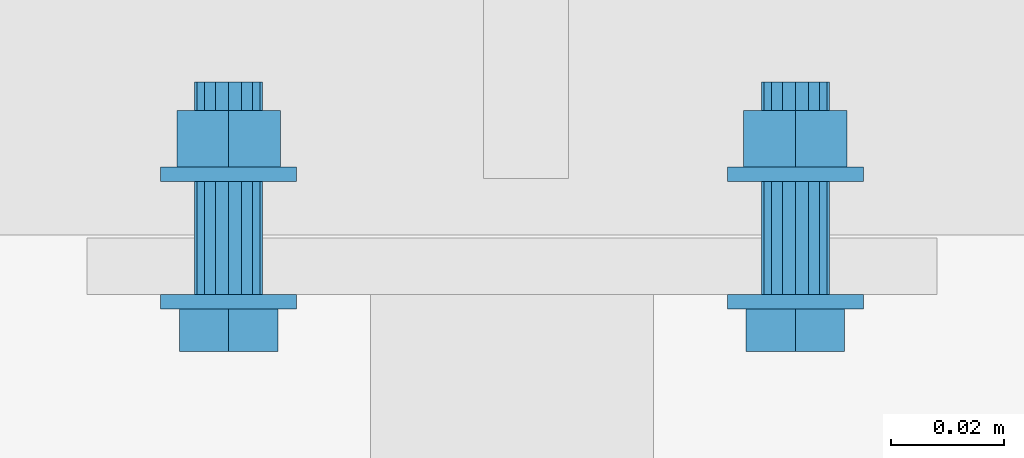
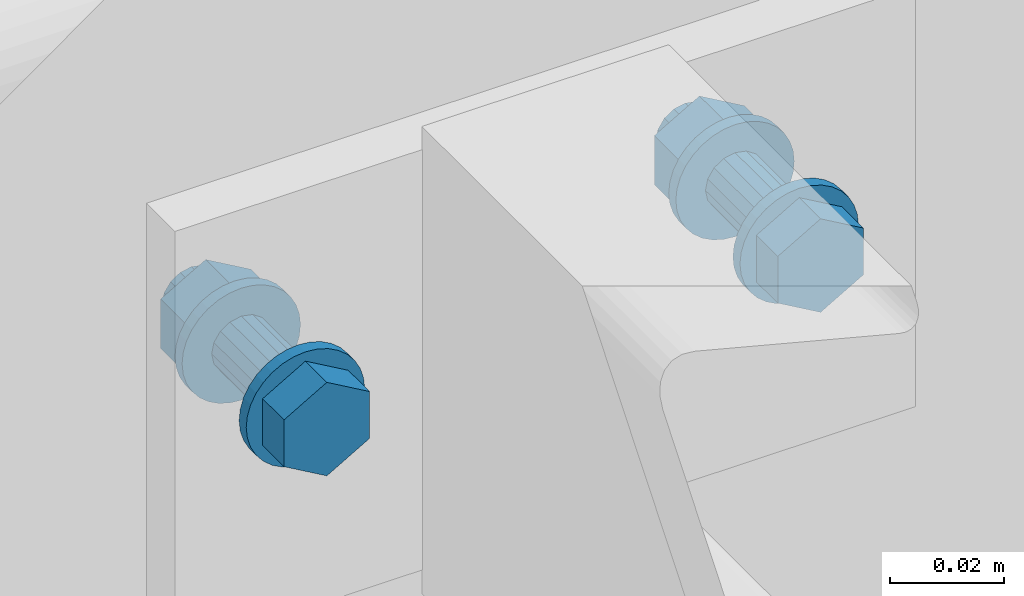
# One storey, part 348 of 825: 1 mechanical fastener.
"""IFC2X3 building model written with IfcOpenShell, lengths in millimetres."""

from ifc_helpers import new_model, entity, si_unit, converted_unit, origin_with_axes, place, context, project, spatial, faceted_brep, element, save


model = new_model("IFC2X3")

# Units and contexts
model_context = context("Model", 3, precision=1e-09, world=origin_with_axes())
ifc_project = project(units=[si_unit("LENGTHUNIT", "METRE", prefix="MILLI"), si_unit("AREAUNIT", "SQUARE_METRE"), si_unit("VOLUMEUNIT", "CUBIC_METRE"), converted_unit("PLANEANGLEUNIT", "DEGREE", entity("IfcPlaneAngleMeasure", 0.01745329), si_unit("PLANEANGLEUNIT", "RADIAN"), dimensions=[0, 0, 0, 0, 0, 0, 0])], contexts=[model_context])

# Site, building, storey
site_placement = place(None, origin_with_axes())
site = spatial("IfcSite", under=ifc_project, at=site_placement, Name="Cnopf'sche Kinderklinik", CompositionType="ELEMENT")
building_placement = place(site_placement, origin_with_axes())
building = spatial("IfcBuilding", under=site, at=building_placement, Name="Struktur 1", CompositionType="ELEMENT")
storey_placement = place(building_placement, origin_with_axes())
storey = spatial("IfcBuildingStorey", under=building, at=storey_placement, Name="Default Storey", CompositionType="ELEMENT", Elevation=0.0)

# Mechanical fastener
mechanical_fastener_placement = place(None, origin_with_axes())
element("IfcMechanicalFastener", 1, at=mechanical_fastener_placement, inside=storey, ObjectType="-", NominalDiameter=12.0, NominalLength=40.0, context=model_context, shape_type="Brep", body=[
    faceted_brep([(4489.713402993, 7293.736971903, 9852.0), (4489.713402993, 7296.236971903, 9852.0), (4489.943979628, 7296.236971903, 9849.658916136), (4489.943979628, 7293.736971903, 9849.658916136), (4490.626848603, 7296.236971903, 9847.407798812), (4490.626848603, 7293.736971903, 9847.407798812), (4491.735767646, 7296.236971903, 9845.333157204), (4491.735767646, 7293.736971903, 9845.333157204), (4493.228121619, 7296.236971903, 9843.514718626), (4493.228121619, 7293.736971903, 9843.514718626), (4495.046560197, 7296.236971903, 9842.022364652), (4495.046560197, 7293.736971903, 9842.022364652), (4497.121201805, 7296.236971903, 9840.91344561), (4497.121201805, 7293.736971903, 9840.91344561), (4499.372319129, 7296.236971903, 9840.230576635), (4499.372319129, 7293.736971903, 9840.230576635), (4501.713402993, 7296.236971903, 9840.0), (4501.713402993, 7293.736971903, 9840.0), (4504.054486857, 7296.236971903, 9840.230576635), (4504.054486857, 7293.736971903, 9840.230576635), (4506.305604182, 7296.236971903, 9840.91344561), (4506.305604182, 7293.736971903, 9840.91344561), (4508.380245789, 7296.236971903, 9842.022364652), (4508.380245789, 7293.736971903, 9842.022364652), (4510.198684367, 7296.236971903, 9843.514718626), (4510.198684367, 7293.736971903, 9843.514718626), (4511.691038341, 7296.236971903, 9845.333157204), (4511.691038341, 7293.736971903, 9845.333157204), (4512.799957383, 7296.236971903, 9847.407798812), (4512.799957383, 7293.736971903, 9847.407798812), (4513.482826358, 7296.236971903, 9849.658916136), (4513.482826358, 7293.736971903, 9849.658916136), (4513.713402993, 7296.236971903, 9852.0), (4513.713402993, 7293.736971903, 9852.0), (4513.482826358, 7296.236971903, 9854.341083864), (4513.482826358, 7293.736971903, 9854.341083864), (4512.799957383, 7296.236971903, 9856.592201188), (4512.799957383, 7293.736971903, 9856.592201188), (4511.691038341, 7296.236971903, 9858.666842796), (4511.691038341, 7293.736971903, 9858.666842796), (4510.198684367, 7296.236971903, 9860.485281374), (4510.198684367, 7293.736971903, 9860.485281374), (4508.380245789, 7296.236971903, 9861.977635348), (4508.380245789, 7293.736971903, 9861.977635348), (4506.305604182, 7296.236971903, 9863.08655439), (4506.305604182, 7293.736971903, 9863.08655439), (4504.054486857, 7296.236971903, 9863.769423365), (4504.054486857, 7293.736971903, 9863.769423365), (4501.713402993, 7296.236971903, 9864.0), (4501.713402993, 7293.736971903, 9864.0), (4499.372319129, 7296.236971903, 9863.769423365), (4499.372319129, 7293.736971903, 9863.769423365), (4497.121201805, 7296.236971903, 9863.08655439), (4497.121201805, 7293.736971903, 9863.08655439), (4495.046560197, 7296.236971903, 9861.977635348), (4495.046560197, 7293.736971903, 9861.977635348), (4493.228121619, 7296.236971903, 9860.485281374), (4493.228121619, 7293.736971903, 9860.485281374), (4491.735767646, 7296.236971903, 9858.666842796), (4491.735767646, 7293.736971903, 9858.666842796), (4490.626848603, 7296.236971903, 9856.592201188), (4490.626848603, 7293.736971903, 9856.592201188), (4489.943979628, 7296.236971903, 9854.341083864), (4489.943979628, 7293.736971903, 9854.341083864)], [[[0, 1, 2, 3]], [[3, 2, 4, 5]], [[5, 4, 6, 7]], [[7, 6, 8, 9]], [[9, 8, 10, 11]], [[11, 10, 12, 13]], [[13, 12, 14, 15]], [[15, 14, 16, 17]], [[17, 16, 18, 19]], [[19, 18, 20, 21]], [[21, 20, 22, 23]], [[23, 22, 24, 25]], [[25, 24, 26, 27]], [[27, 26, 28, 29]], [[29, 28, 30, 31]], [[31, 30, 32, 33]], [[33, 32, 34, 35]], [[35, 34, 36, 37]], [[37, 36, 38, 39]], [[39, 38, 40, 41]], [[41, 40, 42, 43]], [[43, 42, 44, 45]], [[45, 44, 46, 47]], [[47, 46, 48, 49]], [[49, 48, 50, 51]], [[51, 50, 52, 53]], [[53, 52, 54, 55]], [[55, 54, 56, 57]], [[57, 56, 58, 59]], [[59, 58, 60, 61]], [[61, 60, 62, 63]], [[63, 62, 1, 0]], [[0, 3, 5, 7, 9, 11, 13, 15, 17, 19, 21, 23, 25, 27, 29, 31, 33, 35, 37, 39, 41, 43, 45, 47, 49, 51, 53, 55, 57, 59, 61, 63]], [[1, 62, 60, 58, 56, 54, 52, 50, 48, 46, 44, 42, 40, 38, 36, 34, 32, 30, 28, 26, 24, 22, 20, 18, 16, 14, 12, 10, 8, 6, 4, 2]]]),
    faceted_brep([(4389.713402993, 7293.736971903, 9852.0), (4389.713402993, 7296.236971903, 9852.0), (4389.943979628, 7296.236971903, 9849.658916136), (4389.943979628, 7293.736971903, 9849.658916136), (4390.626848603, 7296.236971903, 9847.407798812), (4390.626848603, 7293.736971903, 9847.407798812), (4391.735767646, 7296.236971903, 9845.333157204), (4391.735767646, 7293.736971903, 9845.333157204), (4393.228121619, 7296.236971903, 9843.514718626), (4393.228121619, 7293.736971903, 9843.514718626), (4395.046560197, 7296.236971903, 9842.022364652), (4395.046560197, 7293.736971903, 9842.022364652), (4397.121201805, 7296.236971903, 9840.91344561), (4397.121201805, 7293.736971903, 9840.91344561), (4399.372319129, 7296.236971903, 9840.230576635), (4399.372319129, 7293.736971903, 9840.230576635), (4401.713402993, 7296.236971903, 9840.0), (4401.713402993, 7293.736971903, 9840.0), (4404.054486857, 7296.236971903, 9840.230576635), (4404.054486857, 7293.736971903, 9840.230576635), (4406.305604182, 7296.236971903, 9840.91344561), (4406.305604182, 7293.736971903, 9840.91344561), (4408.380245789, 7296.236971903, 9842.022364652), (4408.380245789, 7293.736971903, 9842.022364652), (4410.198684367, 7296.236971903, 9843.514718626), (4410.198684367, 7293.736971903, 9843.514718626), (4411.691038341, 7296.236971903, 9845.333157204), (4411.691038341, 7293.736971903, 9845.333157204), (4412.799957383, 7296.236971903, 9847.407798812), (4412.799957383, 7293.736971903, 9847.407798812), (4413.482826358, 7296.236971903, 9849.658916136), (4413.482826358, 7293.736971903, 9849.658916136), (4413.713402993, 7296.236971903, 9852.0), (4413.713402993, 7293.736971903, 9852.0), (4413.482826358, 7296.236971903, 9854.341083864), (4413.482826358, 7293.736971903, 9854.341083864), (4412.799957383, 7296.236971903, 9856.592201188), (4412.799957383, 7293.736971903, 9856.592201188), (4411.691038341, 7296.236971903, 9858.666842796), (4411.691038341, 7293.736971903, 9858.666842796), (4410.198684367, 7296.236971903, 9860.485281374), (4410.198684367, 7293.736971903, 9860.485281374), (4408.380245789, 7296.236971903, 9861.977635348), (4408.380245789, 7293.736971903, 9861.977635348), (4406.305604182, 7296.236971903, 9863.08655439), (4406.305604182, 7293.736971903, 9863.08655439), (4404.054486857, 7296.236971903, 9863.769423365), (4404.054486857, 7293.736971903, 9863.769423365), (4401.713402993, 7296.236971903, 9864.0), (4401.713402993, 7293.736971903, 9864.0), (4399.372319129, 7296.236971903, 9863.769423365), (4399.372319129, 7293.736971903, 9863.769423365), (4397.121201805, 7296.236971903, 9863.08655439), (4397.121201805, 7293.736971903, 9863.08655439), (4395.046560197, 7296.236971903, 9861.977635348), (4395.046560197, 7293.736971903, 9861.977635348), (4393.228121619, 7296.236971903, 9860.485281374), (4393.228121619, 7293.736971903, 9860.485281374), (4391.735767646, 7296.236971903, 9858.666842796), (4391.735767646, 7293.736971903, 9858.666842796), (4390.626848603, 7296.236971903, 9856.592201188), (4390.626848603, 7293.736971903, 9856.592201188), (4389.943979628, 7296.236971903, 9854.341083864), (4389.943979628, 7293.736971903, 9854.341083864)], [[[0, 1, 2, 3]], [[3, 2, 4, 5]], [[5, 4, 6, 7]], [[7, 6, 8, 9]], [[9, 8, 10, 11]], [[11, 10, 12, 13]], [[13, 12, 14, 15]], [[15, 14, 16, 17]], [[17, 16, 18, 19]], [[19, 18, 20, 21]], [[21, 20, 22, 23]], [[23, 22, 24, 25]], [[25, 24, 26, 27]], [[27, 26, 28, 29]], [[29, 28, 30, 31]], [[31, 30, 32, 33]], [[33, 32, 34, 35]], [[35, 34, 36, 37]], [[37, 36, 38, 39]], [[39, 38, 40, 41]], [[41, 40, 42, 43]], [[43, 42, 44, 45]], [[45, 44, 46, 47]], [[47, 46, 48, 49]], [[49, 48, 50, 51]], [[51, 50, 52, 53]], [[53, 52, 54, 55]], [[55, 54, 56, 57]], [[57, 56, 58, 59]], [[59, 58, 60, 61]], [[61, 60, 62, 63]], [[63, 62, 1, 0]], [[0, 3, 5, 7, 9, 11, 13, 15, 17, 19, 21, 23, 25, 27, 29, 31, 33, 35, 37, 39, 41, 43, 45, 47, 49, 51, 53, 55, 57, 59, 61, 63]], [[1, 62, 60, 58, 56, 54, 52, 50, 48, 46, 44, 42, 40, 38, 36, 34, 32, 30, 28, 26, 24, 22, 20, 18, 16, 14, 12, 10, 8, 6, 4, 2]]]),
    faceted_brep([(4510.386647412, 7293.736971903, 9846.9925), (4510.386647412, 7286.236971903, 9846.9925), (4501.713402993, 7286.236971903, 9841.985), (4501.713402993, 7293.736971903, 9841.985), (4493.040158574, 7286.236971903, 9846.9925), (4493.040158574, 7293.736971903, 9846.9925), (4493.040158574, 7286.236971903, 9857.0075), (4493.040158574, 7293.736971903, 9857.0075), (4501.713402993, 7286.236971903, 9862.015), (4501.713402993, 7293.736971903, 9862.015), (4510.386647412, 7286.236971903, 9857.0075), (4510.386647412, 7293.736971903, 9857.0075)], [[[0, 1, 2, 3]], [[3, 2, 4, 5]], [[5, 4, 6, 7]], [[7, 6, 8, 9]], [[9, 8, 10, 11]], [[11, 10, 1, 0]], [[4, 2, 1, 10, 8, 6]], [[0, 3, 5, 7, 9, 11]]]),
    faceted_brep([(4410.386647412, 7293.736971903, 9846.9925), (4410.386647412, 7286.236971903, 9846.9925), (4401.713402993, 7286.236971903, 9841.985), (4401.713402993, 7293.736971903, 9841.985), (4393.040158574, 7286.236971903, 9846.9925), (4393.040158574, 7293.736971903, 9846.9925), (4393.040158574, 7286.236971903, 9857.0075), (4393.040158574, 7293.736971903, 9857.0075), (4401.713402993, 7286.236971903, 9862.015), (4401.713402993, 7293.736971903, 9862.015), (4410.386647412, 7286.236971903, 9857.0075), (4410.386647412, 7293.736971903, 9857.0075)], [[[0, 1, 2, 3]], [[3, 2, 4, 5]], [[5, 4, 6, 7]], [[7, 6, 8, 9]], [[9, 8, 10, 11]], [[11, 10, 1, 0]], [[4, 2, 1, 10, 8, 6]], [[0, 3, 5, 7, 9, 11]]]),
    faceted_brep([(4495.713402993, 7296.236971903, 9852.0), (4495.713402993, 7316.236971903, 9852.0), (4496.170125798, 7316.236971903, 9849.703899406), (4496.170125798, 7296.236971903, 9849.703899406), (4497.470762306, 7316.236971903, 9847.757359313), (4497.470762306, 7296.236971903, 9847.757359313), (4499.417302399, 7316.236971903, 9846.456722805), (4499.417302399, 7296.236971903, 9846.456722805), (4501.713402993, 7316.236971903, 9846.0), (4501.713402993, 7296.236971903, 9846.0), (4504.009503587, 7316.236971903, 9846.456722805), (4504.009503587, 7296.236971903, 9846.456722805), (4505.95604368, 7316.236971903, 9847.757359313), (4505.95604368, 7296.236971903, 9847.757359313), (4507.256680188, 7316.236971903, 9849.703899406), (4507.256680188, 7296.236971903, 9849.703899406), (4507.713402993, 7316.236971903, 9852.0), (4507.713402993, 7296.236971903, 9852.0), (4507.256680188, 7316.236971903, 9854.296100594), (4507.256680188, 7296.236971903, 9854.296100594), (4505.95604368, 7316.236971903, 9856.242640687), (4505.95604368, 7296.236971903, 9856.242640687), (4504.009503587, 7316.236971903, 9857.543277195), (4504.009503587, 7296.236971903, 9857.543277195), (4501.713402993, 7316.236971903, 9858.0), (4501.713402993, 7296.236971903, 9858.0), (4499.417302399, 7316.236971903, 9857.543277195), (4499.417302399, 7296.236971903, 9857.543277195), (4497.470762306, 7316.236971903, 9856.242640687), (4497.470762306, 7296.236971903, 9856.242640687), (4496.170125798, 7316.236971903, 9854.296100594), (4496.170125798, 7296.236971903, 9854.296100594)], [[[0, 1, 2, 3]], [[3, 2, 4, 5]], [[5, 4, 6, 7]], [[7, 6, 8, 9]], [[9, 8, 10, 11]], [[11, 10, 12, 13]], [[13, 12, 14, 15]], [[15, 14, 16, 17]], [[17, 16, 18, 19]], [[19, 18, 20, 21]], [[21, 20, 22, 23]], [[23, 22, 24, 25]], [[25, 24, 26, 27]], [[27, 26, 28, 29]], [[29, 28, 30, 31]], [[31, 30, 1, 0]], [[0, 3, 5, 7, 9, 11, 13, 15, 17, 19, 21, 23, 25, 27, 29, 31]], [[1, 30, 28, 26, 24, 22, 20, 18, 16, 14, 12, 10, 8, 6, 4, 2]]]),
    faceted_brep([(4395.713402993, 7296.236971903, 9852.0), (4395.713402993, 7316.236971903, 9852.0), (4396.170125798, 7316.236971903, 9849.703899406), (4396.170125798, 7296.236971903, 9849.703899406), (4397.470762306, 7316.236971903, 9847.757359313), (4397.470762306, 7296.236971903, 9847.757359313), (4399.417302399, 7316.236971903, 9846.456722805), (4399.417302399, 7296.236971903, 9846.456722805), (4401.713402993, 7316.236971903, 9846.0), (4401.713402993, 7296.236971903, 9846.0), (4404.009503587, 7316.236971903, 9846.456722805), (4404.009503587, 7296.236971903, 9846.456722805), (4405.95604368, 7316.236971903, 9847.757359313), (4405.95604368, 7296.236971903, 9847.757359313), (4407.256680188, 7316.236971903, 9849.703899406), (4407.256680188, 7296.236971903, 9849.703899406), (4407.713402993, 7316.236971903, 9852.0), (4407.713402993, 7296.236971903, 9852.0), (4407.256680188, 7316.236971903, 9854.296100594), (4407.256680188, 7296.236971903, 9854.296100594), (4405.95604368, 7316.236971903, 9856.242640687), (4405.95604368, 7296.236971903, 9856.242640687), (4404.009503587, 7316.236971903, 9857.543277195), (4404.009503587, 7296.236971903, 9857.543277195), (4401.713402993, 7316.236971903, 9858.0), (4401.713402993, 7296.236971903, 9858.0), (4399.417302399, 7316.236971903, 9857.543277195), (4399.417302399, 7296.236971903, 9857.543277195), (4397.470762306, 7316.236971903, 9856.242640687), (4397.470762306, 7296.236971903, 9856.242640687), (4396.170125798, 7316.236971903, 9854.296100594), (4396.170125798, 7296.236971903, 9854.296100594)], [[[0, 1, 2, 3]], [[3, 2, 4, 5]], [[5, 4, 6, 7]], [[7, 6, 8, 9]], [[9, 8, 10, 11]], [[11, 10, 12, 13]], [[13, 12, 14, 15]], [[15, 14, 16, 17]], [[17, 16, 18, 19]], [[19, 18, 20, 21]], [[21, 20, 22, 23]], [[23, 22, 24, 25]], [[25, 24, 26, 27]], [[27, 26, 28, 29]], [[29, 28, 30, 31]], [[31, 30, 1, 0]], [[0, 3, 5, 7, 9, 11, 13, 15, 17, 19, 21, 23, 25, 27, 29, 31]], [[1, 30, 28, 26, 24, 22, 20, 18, 16, 14, 12, 10, 8, 6, 4, 2]]]),
    faceted_brep([(4489.713402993, 7316.236971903, 9852.0), (4489.713402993, 7318.736971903, 9852.0), (4489.943979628, 7318.736971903, 9849.658916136), (4489.943979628, 7316.236971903, 9849.658916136), (4490.626848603, 7318.736971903, 9847.407798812), (4490.626848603, 7316.236971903, 9847.407798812), (4491.735767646, 7318.736971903, 9845.333157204), (4491.735767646, 7316.236971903, 9845.333157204), (4493.228121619, 7318.736971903, 9843.514718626), (4493.228121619, 7316.236971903, 9843.514718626), (4495.046560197, 7318.736971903, 9842.022364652), (4495.046560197, 7316.236971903, 9842.022364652), (4497.121201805, 7318.736971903, 9840.91344561), (4497.121201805, 7316.236971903, 9840.91344561), (4499.372319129, 7318.736971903, 9840.230576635), (4499.372319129, 7316.236971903, 9840.230576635), (4501.713402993, 7318.736971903, 9840.0), (4501.713402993, 7316.236971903, 9840.0), (4504.054486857, 7318.736971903, 9840.230576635), (4504.054486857, 7316.236971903, 9840.230576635), (4506.305604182, 7318.736971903, 9840.91344561), (4506.305604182, 7316.236971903, 9840.91344561), (4508.380245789, 7318.736971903, 9842.022364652), (4508.380245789, 7316.236971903, 9842.022364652), (4510.198684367, 7318.736971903, 9843.514718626), (4510.198684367, 7316.236971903, 9843.514718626), (4511.691038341, 7318.736971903, 9845.333157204), (4511.691038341, 7316.236971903, 9845.333157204), (4512.799957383, 7318.736971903, 9847.407798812), (4512.799957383, 7316.236971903, 9847.407798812), (4513.482826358, 7318.736971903, 9849.658916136), (4513.482826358, 7316.236971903, 9849.658916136), (4513.713402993, 7318.736971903, 9852.0), (4513.713402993, 7316.236971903, 9852.0), (4513.482826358, 7318.736971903, 9854.341083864), (4513.482826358, 7316.236971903, 9854.341083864), (4512.799957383, 7318.736971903, 9856.592201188), (4512.799957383, 7316.236971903, 9856.592201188), (4511.691038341, 7318.736971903, 9858.666842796), (4511.691038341, 7316.236971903, 9858.666842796), (4510.198684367, 7318.736971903, 9860.485281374), (4510.198684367, 7316.236971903, 9860.485281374), (4508.380245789, 7318.736971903, 9861.977635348), (4508.380245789, 7316.236971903, 9861.977635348), (4506.305604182, 7318.736971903, 9863.08655439), (4506.305604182, 7316.236971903, 9863.08655439), (4504.054486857, 7318.736971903, 9863.769423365), (4504.054486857, 7316.236971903, 9863.769423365), (4501.713402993, 7318.736971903, 9864.0), (4501.713402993, 7316.236971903, 9864.0), (4499.372319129, 7318.736971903, 9863.769423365), (4499.372319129, 7316.236971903, 9863.769423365), (4497.121201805, 7318.736971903, 9863.08655439), (4497.121201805, 7316.236971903, 9863.08655439), (4495.046560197, 7318.736971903, 9861.977635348), (4495.046560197, 7316.236971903, 9861.977635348), (4493.228121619, 7318.736971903, 9860.485281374), (4493.228121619, 7316.236971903, 9860.485281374), (4491.735767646, 7318.736971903, 9858.666842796), (4491.735767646, 7316.236971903, 9858.666842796), (4490.626848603, 7318.736971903, 9856.592201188), (4490.626848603, 7316.236971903, 9856.592201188), (4489.943979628, 7318.736971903, 9854.341083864), (4489.943979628, 7316.236971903, 9854.341083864)], [[[0, 1, 2, 3]], [[3, 2, 4, 5]], [[5, 4, 6, 7]], [[7, 6, 8, 9]], [[9, 8, 10, 11]], [[11, 10, 12, 13]], [[13, 12, 14, 15]], [[15, 14, 16, 17]], [[17, 16, 18, 19]], [[19, 18, 20, 21]], [[21, 20, 22, 23]], [[23, 22, 24, 25]], [[25, 24, 26, 27]], [[27, 26, 28, 29]], [[29, 28, 30, 31]], [[31, 30, 32, 33]], [[33, 32, 34, 35]], [[35, 34, 36, 37]], [[37, 36, 38, 39]], [[39, 38, 40, 41]], [[41, 40, 42, 43]], [[43, 42, 44, 45]], [[45, 44, 46, 47]], [[47, 46, 48, 49]], [[49, 48, 50, 51]], [[51, 50, 52, 53]], [[53, 52, 54, 55]], [[55, 54, 56, 57]], [[57, 56, 58, 59]], [[59, 58, 60, 61]], [[61, 60, 62, 63]], [[63, 62, 1, 0]], [[0, 3, 5, 7, 9, 11, 13, 15, 17, 19, 21, 23, 25, 27, 29, 31, 33, 35, 37, 39, 41, 43, 45, 47, 49, 51, 53, 55, 57, 59, 61, 63]], [[1, 62, 60, 58, 56, 54, 52, 50, 48, 46, 44, 42, 40, 38, 36, 34, 32, 30, 28, 26, 24, 22, 20, 18, 16, 14, 12, 10, 8, 6, 4, 2]]]),
    faceted_brep([(4389.713402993, 7316.236971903, 9852.0), (4389.713402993, 7318.736971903, 9852.0), (4389.943979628, 7318.736971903, 9849.658916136), (4389.943979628, 7316.236971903, 9849.658916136), (4390.626848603, 7318.736971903, 9847.407798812), (4390.626848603, 7316.236971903, 9847.407798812), (4391.735767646, 7318.736971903, 9845.333157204), (4391.735767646, 7316.236971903, 9845.333157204), (4393.228121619, 7318.736971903, 9843.514718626), (4393.228121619, 7316.236971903, 9843.514718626), (4395.046560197, 7318.736971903, 9842.022364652), (4395.046560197, 7316.236971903, 9842.022364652), (4397.121201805, 7318.736971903, 9840.91344561), (4397.121201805, 7316.236971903, 9840.91344561), (4399.372319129, 7318.736971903, 9840.230576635), (4399.372319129, 7316.236971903, 9840.230576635), (4401.713402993, 7318.736971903, 9840.0), (4401.713402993, 7316.236971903, 9840.0), (4404.054486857, 7318.736971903, 9840.230576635), (4404.054486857, 7316.236971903, 9840.230576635), (4406.305604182, 7318.736971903, 9840.91344561), (4406.305604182, 7316.236971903, 9840.91344561), (4408.380245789, 7318.736971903, 9842.022364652), (4408.380245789, 7316.236971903, 9842.022364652), (4410.198684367, 7318.736971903, 9843.514718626), (4410.198684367, 7316.236971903, 9843.514718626), (4411.691038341, 7318.736971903, 9845.333157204), (4411.691038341, 7316.236971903, 9845.333157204), (4412.799957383, 7318.736971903, 9847.407798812), (4412.799957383, 7316.236971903, 9847.407798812), (4413.482826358, 7318.736971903, 9849.658916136), (4413.482826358, 7316.236971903, 9849.658916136), (4413.713402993, 7318.736971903, 9852.0), (4413.713402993, 7316.236971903, 9852.0), (4413.482826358, 7318.736971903, 9854.341083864), (4413.482826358, 7316.236971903, 9854.341083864), (4412.799957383, 7318.736971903, 9856.592201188), (4412.799957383, 7316.236971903, 9856.592201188), (4411.691038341, 7318.736971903, 9858.666842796), (4411.691038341, 7316.236971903, 9858.666842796), (4410.198684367, 7318.736971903, 9860.485281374), (4410.198684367, 7316.236971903, 9860.485281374), (4408.380245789, 7318.736971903, 9861.977635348), (4408.380245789, 7316.236971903, 9861.977635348), (4406.305604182, 7318.736971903, 9863.08655439), (4406.305604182, 7316.236971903, 9863.08655439), (4404.054486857, 7318.736971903, 9863.769423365), (4404.054486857, 7316.236971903, 9863.769423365), (4401.713402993, 7318.736971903, 9864.0), (4401.713402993, 7316.236971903, 9864.0), (4399.372319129, 7318.736971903, 9863.769423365), (4399.372319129, 7316.236971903, 9863.769423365), (4397.121201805, 7318.736971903, 9863.08655439), (4397.121201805, 7316.236971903, 9863.08655439), (4395.046560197, 7318.736971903, 9861.977635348), (4395.046560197, 7316.236971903, 9861.977635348), (4393.228121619, 7318.736971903, 9860.485281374), (4393.228121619, 7316.236971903, 9860.485281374), (4391.735767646, 7318.736971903, 9858.666842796), (4391.735767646, 7316.236971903, 9858.666842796), (4390.626848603, 7318.736971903, 9856.592201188), (4390.626848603, 7316.236971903, 9856.592201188), (4389.943979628, 7318.736971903, 9854.341083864), (4389.943979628, 7316.236971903, 9854.341083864)], [[[0, 1, 2, 3]], [[3, 2, 4, 5]], [[5, 4, 6, 7]], [[7, 6, 8, 9]], [[9, 8, 10, 11]], [[11, 10, 12, 13]], [[13, 12, 14, 15]], [[15, 14, 16, 17]], [[17, 16, 18, 19]], [[19, 18, 20, 21]], [[21, 20, 22, 23]], [[23, 22, 24, 25]], [[25, 24, 26, 27]], [[27, 26, 28, 29]], [[29, 28, 30, 31]], [[31, 30, 32, 33]], [[33, 32, 34, 35]], [[35, 34, 36, 37]], [[37, 36, 38, 39]], [[39, 38, 40, 41]], [[41, 40, 42, 43]], [[43, 42, 44, 45]], [[45, 44, 46, 47]], [[47, 46, 48, 49]], [[49, 48, 50, 51]], [[51, 50, 52, 53]], [[53, 52, 54, 55]], [[55, 54, 56, 57]], [[57, 56, 58, 59]], [[59, 58, 60, 61]], [[61, 60, 62, 63]], [[63, 62, 1, 0]], [[0, 3, 5, 7, 9, 11, 13, 15, 17, 19, 21, 23, 25, 27, 29, 31, 33, 35, 37, 39, 41, 43, 45, 47, 49, 51, 53, 55, 57, 59, 61, 63]], [[1, 62, 60, 58, 56, 54, 52, 50, 48, 46, 44, 42, 40, 38, 36, 34, 32, 30, 28, 26, 24, 22, 20, 18, 16, 14, 12, 10, 8, 6, 4, 2]]]),
    faceted_brep([(4510.849971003, 7328.736971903, 9846.725), (4510.849971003, 7318.736971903, 9846.725), (4501.713402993, 7318.736971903, 9841.45), (4501.713402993, 7328.736971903, 9841.45), (4492.576834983, 7318.736971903, 9846.725), (4492.576834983, 7328.736971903, 9846.725), (4492.576834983, 7318.736971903, 9857.275), (4492.576834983, 7328.736971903, 9857.275), (4501.713402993, 7318.736971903, 9862.55), (4501.713402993, 7328.736971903, 9862.55), (4510.849971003, 7318.736971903, 9857.275), (4510.849971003, 7328.736971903, 9857.275)], [[[0, 1, 2, 3]], [[3, 2, 4, 5]], [[5, 4, 6, 7]], [[7, 6, 8, 9]], [[9, 8, 10, 11]], [[11, 10, 1, 0]], [[4, 2, 1, 10, 8, 6]], [[0, 3, 5, 7, 9, 11]]]),
    faceted_brep([(4410.849971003, 7328.736971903, 9846.725), (4410.849971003, 7318.736971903, 9846.725), (4401.713402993, 7318.736971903, 9841.45), (4401.713402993, 7328.736971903, 9841.45), (4392.576834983, 7318.736971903, 9846.725), (4392.576834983, 7328.736971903, 9846.725), (4392.576834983, 7318.736971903, 9857.275), (4392.576834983, 7328.736971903, 9857.275), (4401.713402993, 7318.736971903, 9862.55), (4401.713402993, 7328.736971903, 9862.55), (4410.849971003, 7318.736971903, 9857.275), (4410.849971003, 7328.736971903, 9857.275)], [[[0, 1, 2, 3]], [[3, 2, 4, 5]], [[5, 4, 6, 7]], [[7, 6, 8, 9]], [[9, 8, 10, 11]], [[11, 10, 1, 0]], [[4, 2, 1, 10, 8, 6]], [[0, 3, 5, 7, 9, 11]]]),
    faceted_brep([(4495.713402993, 7328.736971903, 9852.0), (4495.713402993, 7333.736971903, 9852.0), (4496.170125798, 7333.736971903, 9849.703899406), (4496.170125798, 7328.736971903, 9849.703899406), (4497.470762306, 7333.736971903, 9847.757359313), (4497.470762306, 7328.736971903, 9847.757359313), (4499.417302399, 7333.736971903, 9846.456722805), (4499.417302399, 7328.736971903, 9846.456722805), (4501.713402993, 7333.736971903, 9846.0), (4501.713402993, 7328.736971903, 9846.0), (4504.009503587, 7333.736971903, 9846.456722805), (4504.009503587, 7328.736971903, 9846.456722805), (4505.95604368, 7333.736971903, 9847.757359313), (4505.95604368, 7328.736971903, 9847.757359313), (4507.256680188, 7333.736971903, 9849.703899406), (4507.256680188, 7328.736971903, 9849.703899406), (4507.713402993, 7333.736971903, 9852.0), (4507.713402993, 7328.736971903, 9852.0), (4507.256680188, 7333.736971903, 9854.296100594), (4507.256680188, 7328.736971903, 9854.296100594), (4505.95604368, 7333.736971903, 9856.242640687), (4505.95604368, 7328.736971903, 9856.242640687), (4504.009503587, 7333.736971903, 9857.543277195), (4504.009503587, 7328.736971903, 9857.543277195), (4501.713402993, 7333.736971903, 9858.0), (4501.713402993, 7328.736971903, 9858.0), (4499.417302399, 7333.736971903, 9857.543277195), (4499.417302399, 7328.736971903, 9857.543277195), (4497.470762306, 7333.736971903, 9856.242640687), (4497.470762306, 7328.736971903, 9856.242640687), (4496.170125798, 7333.736971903, 9854.296100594), (4496.170125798, 7328.736971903, 9854.296100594)], [[[0, 1, 2, 3]], [[3, 2, 4, 5]], [[5, 4, 6, 7]], [[7, 6, 8, 9]], [[9, 8, 10, 11]], [[11, 10, 12, 13]], [[13, 12, 14, 15]], [[15, 14, 16, 17]], [[17, 16, 18, 19]], [[19, 18, 20, 21]], [[21, 20, 22, 23]], [[23, 22, 24, 25]], [[25, 24, 26, 27]], [[27, 26, 28, 29]], [[29, 28, 30, 31]], [[31, 30, 1, 0]], [[0, 3, 5, 7, 9, 11, 13, 15, 17, 19, 21, 23, 25, 27, 29, 31]], [[1, 30, 28, 26, 24, 22, 20, 18, 16, 14, 12, 10, 8, 6, 4, 2]]]),
    faceted_brep([(4395.713402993, 7328.736971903, 9852.0), (4395.713402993, 7333.736971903, 9852.0), (4396.170125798, 7333.736971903, 9849.703899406), (4396.170125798, 7328.736971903, 9849.703899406), (4397.470762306, 7333.736971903, 9847.757359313), (4397.470762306, 7328.736971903, 9847.757359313), (4399.417302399, 7333.736971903, 9846.456722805), (4399.417302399, 7328.736971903, 9846.456722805), (4401.713402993, 7333.736971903, 9846.0), (4401.713402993, 7328.736971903, 9846.0), (4404.009503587, 7333.736971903, 9846.456722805), (4404.009503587, 7328.736971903, 9846.456722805), (4405.95604368, 7333.736971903, 9847.757359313), (4405.95604368, 7328.736971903, 9847.757359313), (4407.256680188, 7333.736971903, 9849.703899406), (4407.256680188, 7328.736971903, 9849.703899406), (4407.713402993, 7333.736971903, 9852.0), (4407.713402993, 7328.736971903, 9852.0), (4407.256680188, 7333.736971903, 9854.296100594), (4407.256680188, 7328.736971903, 9854.296100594), (4405.95604368, 7333.736971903, 9856.242640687), (4405.95604368, 7328.736971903, 9856.242640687), (4404.009503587, 7333.736971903, 9857.543277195), (4404.009503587, 7328.736971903, 9857.543277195), (4401.713402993, 7333.736971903, 9858.0), (4401.713402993, 7328.736971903, 9858.0), (4399.417302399, 7333.736971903, 9857.543277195), (4399.417302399, 7328.736971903, 9857.543277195), (4397.470762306, 7333.736971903, 9856.242640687), (4397.470762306, 7328.736971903, 9856.242640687), (4396.170125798, 7333.736971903, 9854.296100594), (4396.170125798, 7328.736971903, 9854.296100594)], [[[0, 1, 2, 3]], [[3, 2, 4, 5]], [[5, 4, 6, 7]], [[7, 6, 8, 9]], [[9, 8, 10, 11]], [[11, 10, 12, 13]], [[13, 12, 14, 15]], [[15, 14, 16, 17]], [[17, 16, 18, 19]], [[19, 18, 20, 21]], [[21, 20, 22, 23]], [[23, 22, 24, 25]], [[25, 24, 26, 27]], [[27, 26, 28, 29]], [[29, 28, 30, 31]], [[31, 30, 1, 0]], [[0, 3, 5, 7, 9, 11, 13, 15, 17, 19, 21, 23, 25, 27, 29, 31]], [[1, 30, 28, 26, 24, 22, 20, 18, 16, 14, 12, 10, 8, 6, 4, 2]]]),
])

save(model, "model.ifc")
